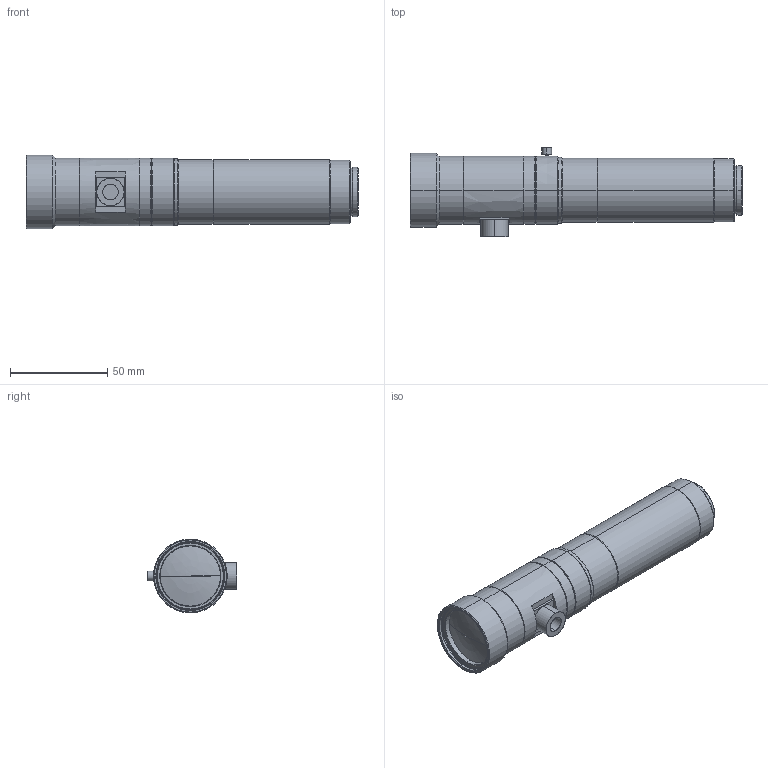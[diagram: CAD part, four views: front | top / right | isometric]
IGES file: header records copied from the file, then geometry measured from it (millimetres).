
Start section: SolidWorks IGES file using analytic representation for surfaces
Bounding box: 170.98 x 46.3 x 38 mm (x, y, z)
Surface area: 31263.7 mm2 (no closed solid volume)
Topology: 0 solids, 0 shells, 166 faces, 2740 edges, 2738 vertices
Faces by surface type: revolution 136, bspline 30
